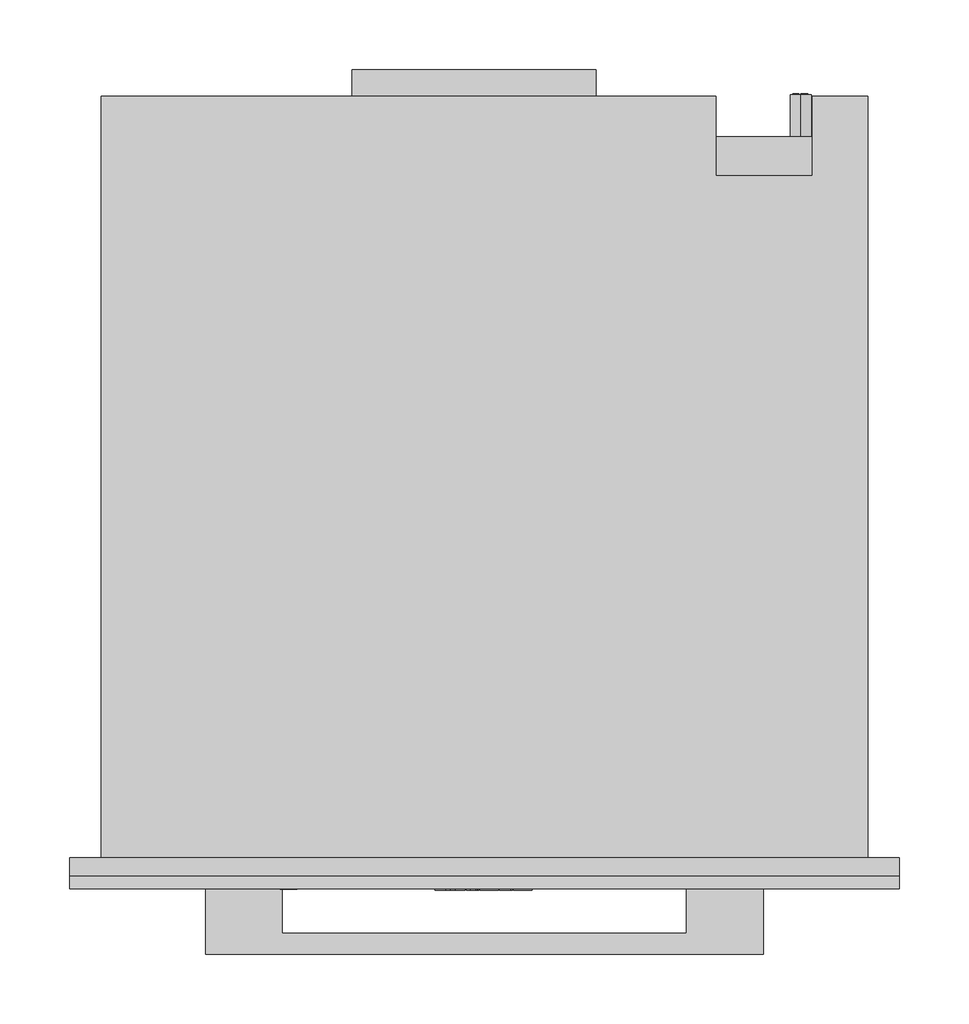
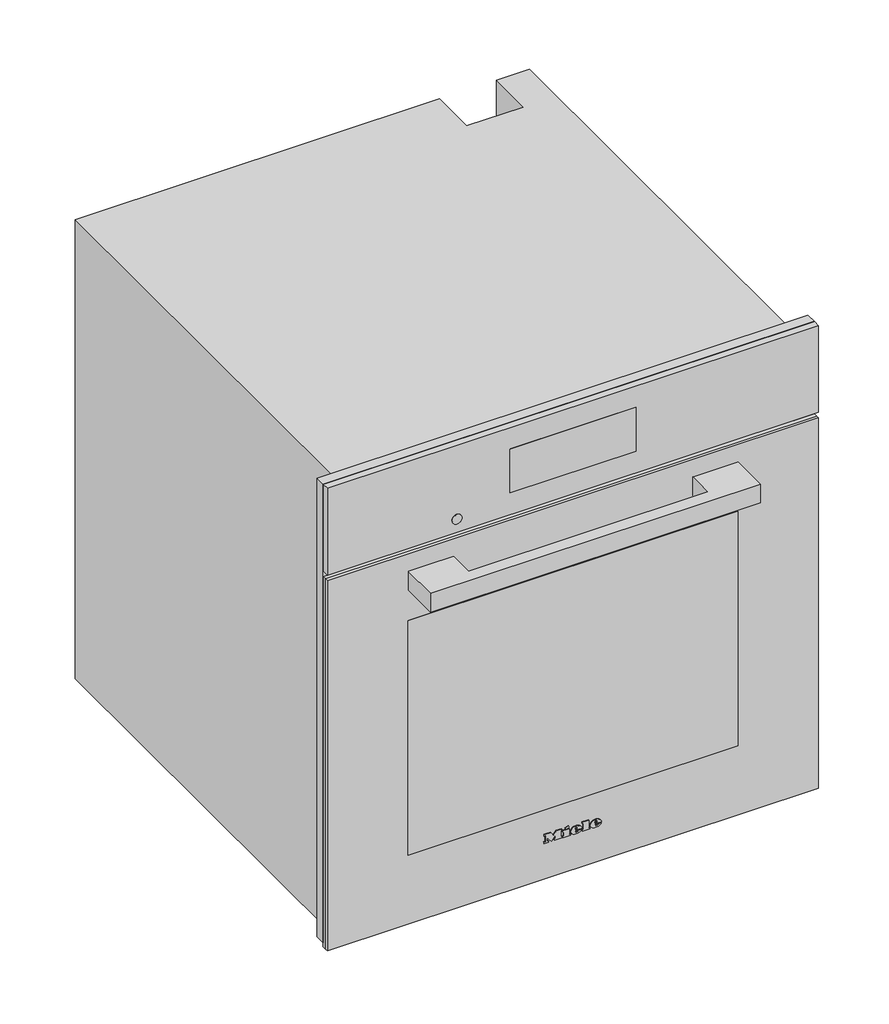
# Not in any storey: 1 proxy.
"""IFC4 building model written with IfcOpenShell, lengths in millimetres."""

from ifc_helpers import new_model, si_unit, origin, place, context, project, spatial, transform, mapped, element, save
from components import specialty_equipment_37460341

model = new_model("IFC4")

# Units and contexts
model_context = context("Model", 3, world=origin())
ifc_project = project(units=[si_unit("LENGTHUNIT", "METRE", prefix="MILLI")], contexts=[model_context])

# Site, building
site = spatial("IfcSite", under=ifc_project)
building = spatial("IfcBuilding", under=site)

# Proxy
placement = place(None, origin())
specialty_equipment_shape = specialty_equipment_37460341(model_context)
element("IfcBuildingElementProxy", 1, Name="11877000_USA_DGC7860_OBSW : 23786023_USA_11877000_DGC7860_OBSW", ObjectType="11877000_USA_DGC7860_OBSW : 23786023_USA_11877000_DGC7860_OBSW", at=placement, inside=building, context=model_context, shape_type="MappedRepresentation", body=[
    mapped(specialty_equipment_shape, transform((0.0, 0.0, 0.0), x_axis=(1.0, 0.0, 0.0), y_axis=(0.0, 1.0, 0.0), z_axis=(0.0, 0.0, 1.0))),
])

save(model, "model.ifc")
